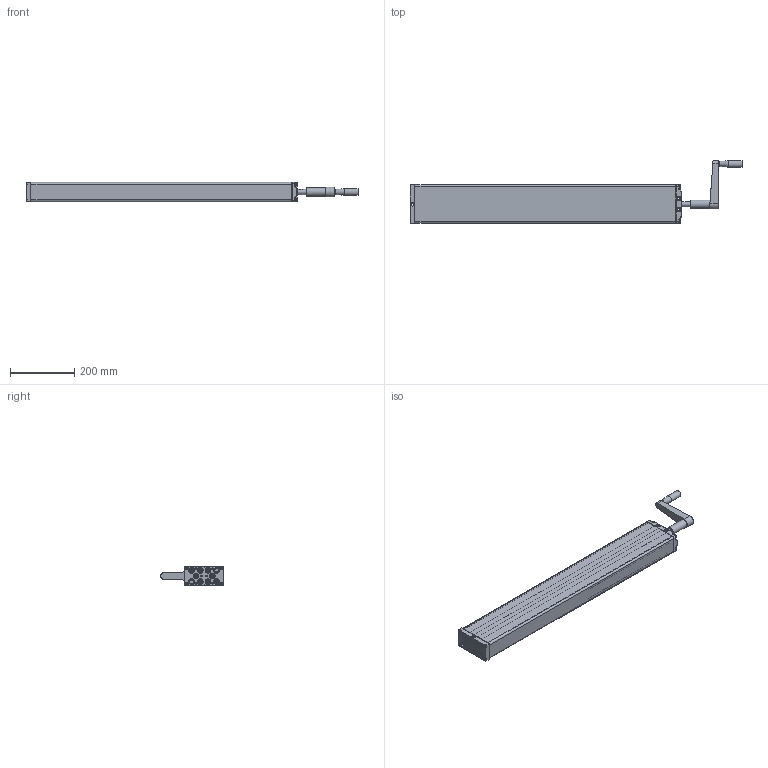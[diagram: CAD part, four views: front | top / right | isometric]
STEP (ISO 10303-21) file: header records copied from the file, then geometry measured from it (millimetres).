
FILE_DESCRIPTION(/* description */ ('Unknown'),/* implementation_level */ '2;1');
FILE_NAME(/* name */ '312.20209 Pumpe PB 8860 W mit Handkurbel',/* time_stamp */ '2016-11-24T16:06:03+01:00',/* author */ ('Unknown'),/* organization */ ('Unknown'),/* preprocessor_version */ 'ST-DEVELOPER v16.7',/* originating_system */ 'DEX',/* authorisation */ $);
FILE_SCHEMA (('AUTOMOTIVE_DESIGN {1 0 10303 214 3 1 1}'));
Products named in the file (23): 102.00209; 115.10036; 125.00061; 115.00008; 142.00021; 125.00021; 113.00005; 128.00001; 125.00052; 126.00013; 125.00053; 127.00014; Handgriff; 142.00013; 125.00146; 115.00140; 126.00006; 122.00040; 119.00046; 126.00036; 142.00057; 142.00083; 142.00017
Assembly tree (40 placements, depth 3):
  102.00209
    115.10036  x8
      125.00061
      115.00008
      142.00021
      125.00021
    113.00005
      128.00001
      125.00052
      126.00013
      125.00053
      127.00014
      Handgriff
    142.00013  x8
    125.00146
    115.00140
      126.00006
      122.00040
    119.00046
    126.00036
    142.00057
    142.00083  x4
    142.00017  x2
Bounding box: 1032.75 x 195.5 x 60.3 mm (x, y, z)
Volume: 1164609.5 mm3; surface area: 758637.1 mm2
Topology: 50 solids, 50 shells, 2237 faces, 5076 edges, 2975 vertices
Faces by surface type: plane 815, cylinder 510, bspline 380, cone 364, torus 110, sphere 58
Full cylindrical faces by diameter (mm): 3.5 x8, 4 x2, 4.1 x8, 4.134 x4, 4.2 x9, 4.917 x4, 5 x12, 5.8 x4, 6 x2, 6.8 x1, 6.917 x16, 8 x18, 8.5 x4, 9.8 x8, 10 x6, 10.4 x1, 10.5 x4, 12.5 x8, 12.8 x1, 13 x27, 14 x1, 14.4 x8, 16 x2, 17 x1, 17.9 x16, 18 x11, 19 x1, 20.6 x1, 21 x1, 22 x1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
Entity records: 64069 total; most frequent: CARTESIAN_POINT 30507, ORIENTED_EDGE 5368, DIRECTION 4819, EDGE_CURVE 2684, AXIS2_PLACEMENT_3D 1876, VERTEX_POINT 1709, FACE_BOUND 1541, EDGE_LOOP 1538
